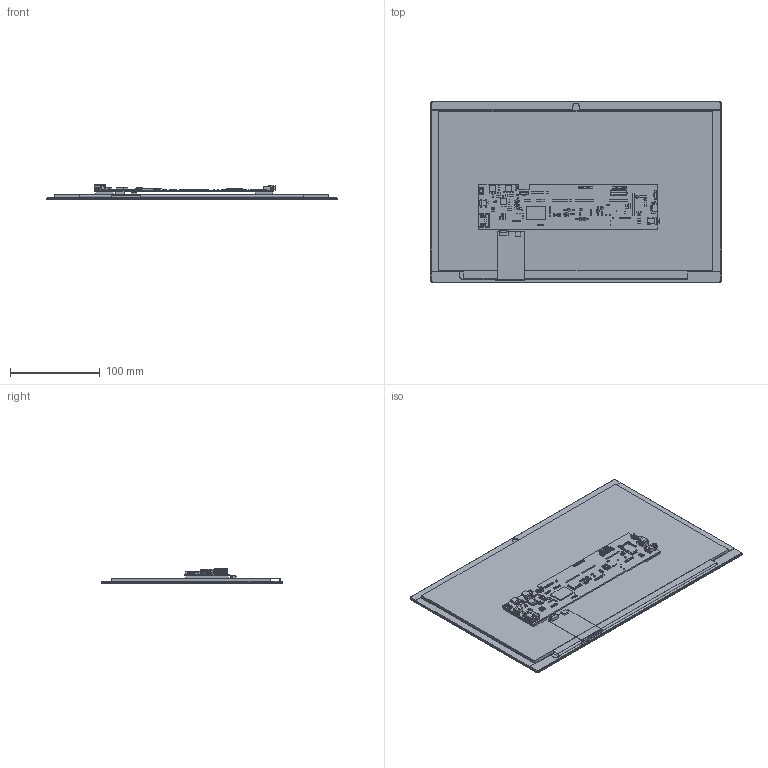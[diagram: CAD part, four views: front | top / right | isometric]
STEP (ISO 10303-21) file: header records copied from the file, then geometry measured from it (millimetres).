
FILE_DESCRIPTION((''),'2;1');
FILE_NAME('13_3INCH_HDMI_LCD-H_ASM','2026-01-24T16:38:38',('ag'),(''),'CREO PARAMETRIC BY PTC INC, 2021063','CREO PARAMETRIC BY PTC INC, 2021063','');
FILE_SCHEMA(('CONFIG_CONTROL_DESIGN','SHAPE_APPEARANCE_LAYERS_GROUPS'));
Products named in the file (13): 13_3-TP; 13_3-LCD; 13_3-LCD_ASM; EDP_HDMI_DRIVER_BOARD_-1000NIT; MICRO-USB-2_0; HDMI-19PIN-SMT; HP_SMT; 30PIN-0_5SH_LCD_CONNECTOR; HP1_25MM-4P-SMT-HORIZONTAL-2; HP2_0-4PIN-SMT-HORIZONTAL; DC045-SMT_6X4_7X9_3_7MM; PCB_ASM; 13_3INCH_HDMI_LCD-H_ASM
Assembly tree (13 placements, depth 3):
  13_3INCH_HDMI_LCD-H_ASM
    13_3-LCD_ASM
      13_3-TP
      13_3-LCD
    PCB_ASM
      EDP_HDMI_DRIVER_BOARD_-1000NIT
      MICRO-USB-2_0
      HDMI-19PIN-SMT
      HP_SMT
      30PIN-0_5SH_LCD_CONNECTOR
      HP1_25MM-4P-SMT-HORIZONTAL-2  x2
      HP2_0-4PIN-SMT-HORIZONTAL
      DC045-SMT_6X4_7X9_3_7MM
Bounding box: 324.57 x 202.97 x 16.18 mm (x, y, z)
Volume: 329598.2 mm3; surface area: 293788.1 mm2
Topology: 15 solids, 37 shells, 5360 faces, 15636 edges, 10462 vertices
Faces by surface type: plane 4527, cylinder 804, cone 12, sphere 9, bspline 6, torus 2
Entity records: 211200 total; most frequent: CARTESIAN_POINT 31380, ORIENTED_EDGE 29514, DIRECTION 26758, EDGE_CURVE 14984, VECTOR 13126, LINE 13126, VERTEX_POINT 10046, PRESENTATION_STYLE_ASSIGNMENT 9758
